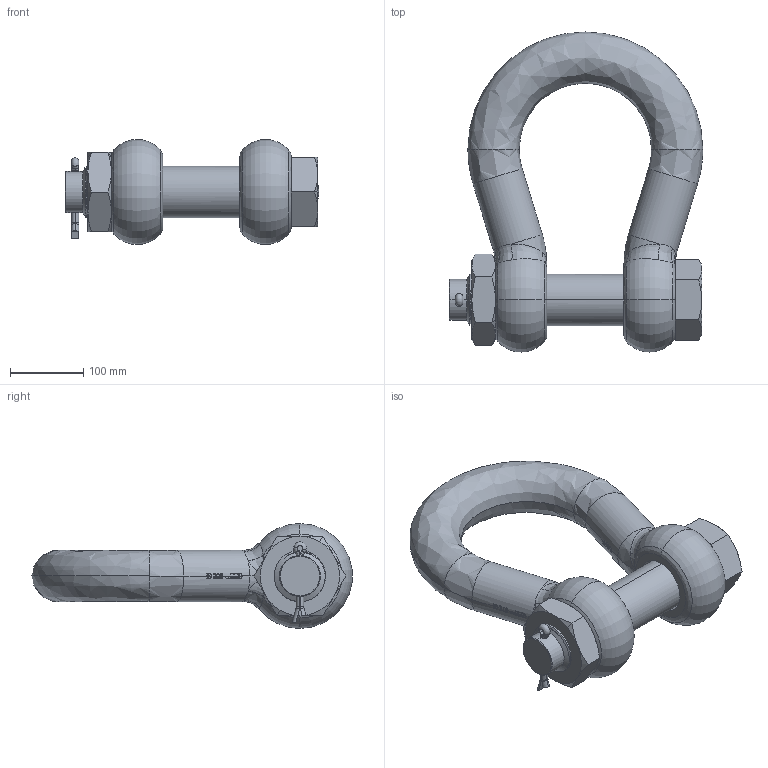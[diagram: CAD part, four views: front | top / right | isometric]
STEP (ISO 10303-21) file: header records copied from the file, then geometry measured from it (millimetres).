
FILE_DESCRIPTION (( 'STEP AP203' ), '1' );
FILE_NAME ('SUGHMB70.STEP', '2009-08-26T14:17:42', ( '.' ), ( '.' ), 'SwSTEP 2.0', 'SolidWorks 2009', '' );
FILE_SCHEMA (( 'CONFIG_CONTROL_DESIGN' ));
Length unit declared in the file: millimetre
Products named in the file (5): SUGHMB70; 85; 85_1; 85_2; 85_3
Assembly tree (4 placements, depth 2):
  SUGHMB70
    85_3
    85_1
    85
    85_2
Bounding box: 345.5 x 435.97 x 143 mm (x, y, z)
Volume: 5585994.2 mm3; surface area: 401738.7 mm2
Topology: 4 solids, 4 shells, 891 faces, 2478 edges, 1616 vertices
Faces by surface type: bspline 408, plane 318, cylinder 126, cone 28, torus 11
Entity records: 46002 total; most frequent: CARTESIAN_POINT 26423, ORIENTED_EDGE 4940, EDGE_CURVE 2470, DIRECTION 2423, VERTEX_POINT 1616, VECTOR 1131, LINE 1131, B_SPLINE_CURVE_WITH_KNOTS 949
